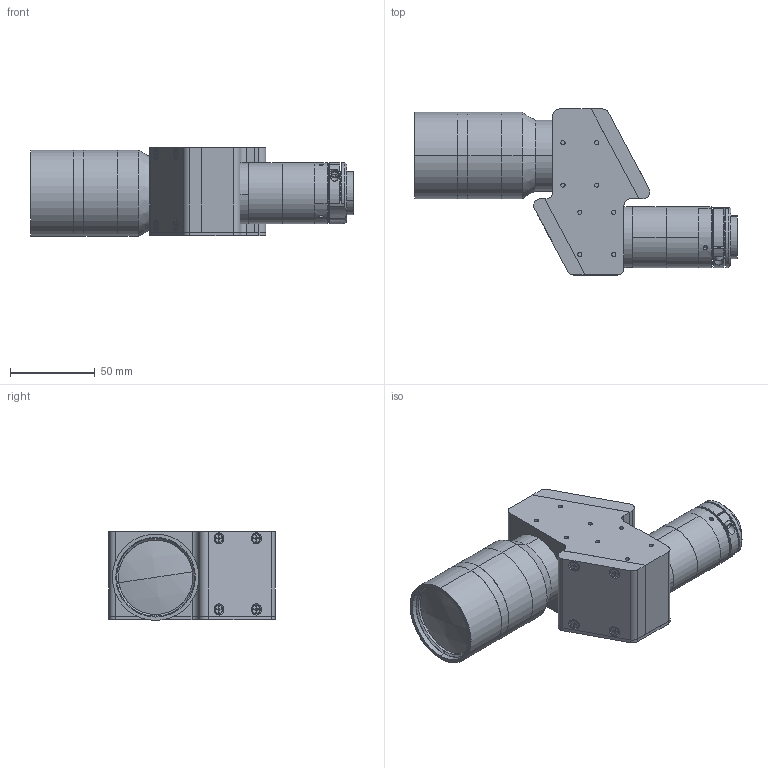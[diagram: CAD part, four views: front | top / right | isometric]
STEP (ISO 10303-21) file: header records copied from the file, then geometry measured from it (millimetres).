
FILE_DESCRIPTION (( 'STEP AP203' ), '1' );
FILE_NAME ('XF-MH03X846.STEP', '2020-08-24T07:18:48', ( 'canrill-02' ), ( '' ), 'SwSTEP 2.0', 'SolidWorks 2014', '' );
FILE_SCHEMA (( 'CONFIG_CONTROL_DESIGN' ));
Length unit declared in the file: millimetre
Products named in the file (1): XF-MH03X846
Bounding box: 190.58 x 98 x 52.5 mm (x, y, z)
Surface area: 54024.9 mm2 (no closed solid volume)
Topology: 0 solids, 32 shells, 415 faces, 1338 edges, 921 vertices
Faces by surface type: plane 212, cylinder 156, cone 43, sphere 2, torus 2
Entity records: 15055 total; most frequent: CARTESIAN_POINT 3008, DIRECTION 2621, ORIENTED_EDGE 2188, EDGE_CURVE 1338, VERTEX_POINT 921, AXIS2_PLACEMENT_3D 894, LINE 833, VECTOR 833
